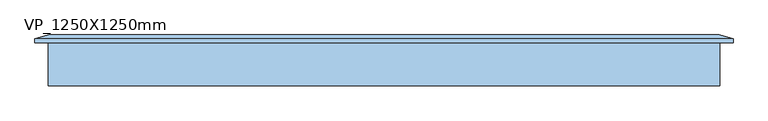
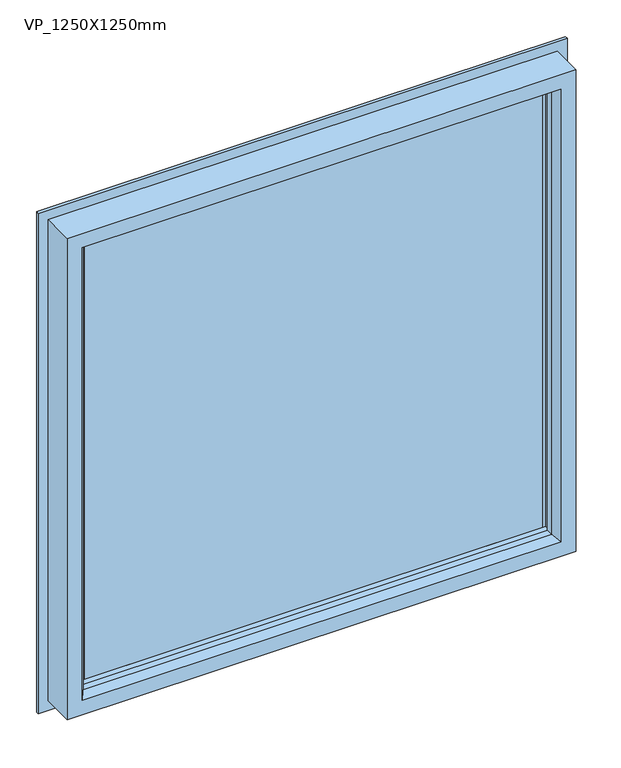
"""IFC4 building model written with IfcOpenShell, lengths in millimetres: window geometry, VENTANA_PROYECTANTE_1HOJA : VP_1250X1250mm."""

from ifc_helpers import new_model, si_unit, frame, origin, place, context, project, spatial, polyline, outline, extrude, faceted_brep, source, transform, mapped, element, save


def vp_1250x1250mm_90614fad(model_context):
    return source(origin(), model_context, "Body", "SolidModel", [
        extrude(outline(polyline([(455.0, 72.4565678), (-455.0, 72.4565678), (-455.0, 96.4565678), (455.0, 96.4565678), (455.0, 72.4565678)])), frame((0.0, 0.0, 1130.0), z_axis=(0.0, 0.0, 1.0), x_axis=(1.0, 0.0, 0.0)), (0.0, 0.0, 1.0), 910.0),
        faceted_brep([(-525.0, 108.4565678, 2110.0), (-525.0, 114.2300705, 2110.0), (-525.0, 114.2300705, 1060.0), (-525.0, 108.4565678, 1060.0), (-505.0, 43.4565678, 2090.0), (-505.0, 108.4565678, 2090.0), (-505.0, 108.4565678, 1080.0), (-505.0, 43.4565678, 1080.0), (-465.0, 57.9494677, 2050.0), (-475.1480377, 43.4565678, 2060.1480377), (-475.1480377, 43.4565678, 1109.8519623), (-465.0, 57.9494677, 1120.0), (-465.0, 72.4565678, 2050.0), (-465.0, 72.4565678, 1120.0), (-475.0, 96.4565678, 2060.0), (-475.0, 72.4565678, 2060.0), (-475.0, 72.4565678, 1110.0), (-475.0, 96.4565678, 1110.0), (-465.0, 114.2300705, 2050.0), (-465.0, 96.4565678, 2050.0), (-465.0, 96.4565678, 1120.0), (-465.0, 114.2300705, 1120.0), (-482.4457548, 120.0035732, 2067.4457548), (-482.4457548, 120.0035732, 1102.5542452), (-504.2153903, 120.0035732, 2089.2153903), (-504.2153903, 120.0035732, 1080.7846097), (525.0, 114.2300705, 1060.0), (525.0, 108.4565678, 1060.0), (505.0, 108.4565678, 1080.0), (505.0, 43.4565678, 1080.0), (475.1480377, 43.4565678, 1109.8519623), (465.0, 57.9494677, 1120.0), (465.0, 72.4565678, 1120.0), (475.0, 72.4565678, 1110.0), (475.0, 96.4565678, 1110.0), (465.0, 96.4565678, 1120.0), (465.0, 114.2300705, 1120.0), (482.4457548, 120.0035732, 1102.5542452), (504.2153903, 120.0035732, 1080.7846097), (525.0, 114.2300705, 2110.0), (525.0, 108.4565678, 2110.0), (505.0, 108.4565678, 2090.0), (505.0, 43.4565678, 2090.0), (475.1480377, 43.4565678, 2060.1480377), (465.0, 57.9494677, 2050.0), (465.0, 72.4565678, 2050.0), (475.0, 72.4565678, 2060.0), (475.0, 96.4565678, 2060.0), (465.0, 96.4565678, 2050.0), (465.0, 114.2300705, 2050.0), (482.4457548, 120.0035732, 2067.4457548), (504.2153903, 120.0035732, 2089.2153903)], [[[0, 1, 2, 3]], [[4, 5, 6, 7]], [[8, 9, 10, 11]], [[12, 8, 11, 13]], [[14, 15, 16, 17]], [[18, 19, 20, 21]], [[22, 18, 21, 23]], [[1, 24, 25, 2]], [[3, 2, 26, 27]], [[7, 6, 28, 29]], [[11, 10, 30, 31]], [[13, 11, 31, 32]], [[17, 16, 33, 34]], [[21, 20, 35, 36]], [[23, 21, 36, 37]], [[2, 25, 38, 26]], [[27, 26, 39, 40]], [[29, 28, 41, 42]], [[31, 30, 43, 44]], [[32, 31, 44, 45]], [[34, 33, 46, 47]], [[36, 35, 48, 49]], [[37, 36, 49, 50]], [[26, 38, 51, 39]], [[40, 39, 1, 0]], [[3, 27, 40, 0], [5, 41, 28, 6]], [[42, 41, 5, 4]], [[7, 29, 42, 4], [9, 43, 30, 10]], [[44, 43, 9, 8]], [[45, 44, 8, 12]], [[15, 46, 33, 16], [13, 32, 45, 12]], [[47, 46, 15, 14]], [[17, 34, 47, 14], [19, 48, 35, 20]], [[49, 48, 19, 18]], [[50, 49, 18, 22]], [[24, 51, 38, 25], [23, 37, 50, 22]], [[39, 51, 24, 1]]]),
    ])


if __name__ == "__main__":
    model = new_model("IFC4")
    model_context = context("Model", 3, world=origin())
    ifc_project = project(units=[si_unit("LENGTHUNIT", "METRE", prefix="MILLI")], contexts=[model_context])
    site = spatial("IfcSite", under=ifc_project)
    building = spatial("IfcBuilding", under=site)
    placement = place(None, origin())
    vp_1250x1250mm_shape = vp_1250x1250mm_90614fad(model_context)
    element("IfcWindow", 1, ObjectType="VENTANA_PROYECTANTE_1HOJA : VP_1250X1250mm", at=placement, inside=building, context=model_context, shape_type="MappedRepresentation", body=[
        mapped(vp_1250x1250mm_shape, transform((0.0, 0.0, 0.0), x_axis=(1.0, 0.0, 0.0), y_axis=(0.0, 1.0, 0.0), z_axis=(0.0, 0.0, 1.0))),
    ])
    save(model, "model.ifc")
